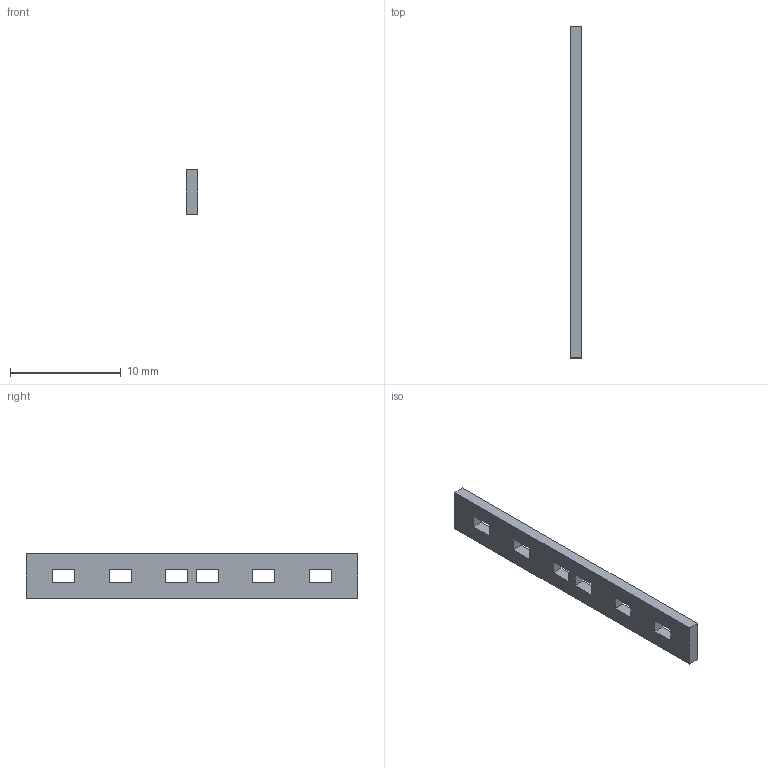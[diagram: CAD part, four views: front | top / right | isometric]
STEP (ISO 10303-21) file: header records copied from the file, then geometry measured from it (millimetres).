
FILE_DESCRIPTION(('Open CASCADE Model'),'2;1');
FILE_NAME('Open CASCADE Shape Model','2026-10-17T17:22:13',('Author'),( 'Open CASCADE'),'Open CASCADE STEP processor 7.9','Open CASCADE 7.9' ,'Unknown');
FILE_SCHEMA(('AUTOMOTIVE_DESIGN { 1 0 10303 214 1 1 1 1 }'));
Length unit declared in the file: millimetre
Products named in the file (1): Open CASCADE STEP translator 7.9 19
Bounding box: 1 x 30 x 4 mm (x, y, z)
Volume: 105.6 mm3; surface area: 317.6 mm2
Topology: 1 solids, 1 shells, 30 faces, 84 edges, 56 vertices
Faces by surface type: plane 30
Entity records: 1978 total; most frequent: CARTESIAN_POINT 435, DIRECTION 218, ORIENTED_EDGE 168, PCURVE 168, DEFINITIONAL_REPRESENTATION 168, LINE 156, VECTOR 156, B_SPLINE_CURVE_WITH_KNOTS 96
